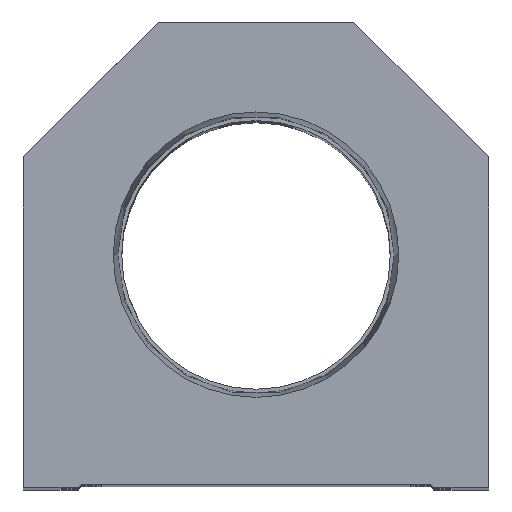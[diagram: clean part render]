
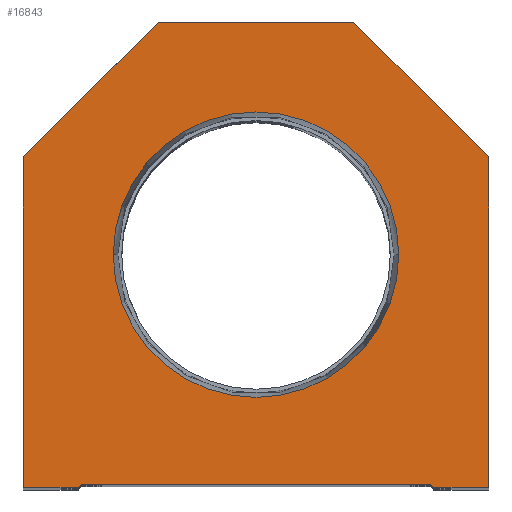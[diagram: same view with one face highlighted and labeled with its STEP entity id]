
A CAD part, top view. The second image highlights one B-rep face of the part: STEP entity #16843.
In plain terms, the highlighted planar face has unit normal (0, 0, 1).
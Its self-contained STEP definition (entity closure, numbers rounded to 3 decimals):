
#73 = EDGE_CURVE ( 'NONE', #10423, #9081, #10498, .T. ) ;
#437 = ORIENTED_EDGE ( 'NONE', *, *, #4249, .T. ) ;
#459 = ORIENTED_EDGE ( 'NONE', *, *, #3822, .T. ) ;
#995 = ORIENTED_EDGE ( 'NONE', *, *, #11549, .T. ) ;
#1031 = ORIENTED_EDGE ( 'NONE', *, *, #18874, .T. ) ;
#1499 = DIRECTION ( 'NONE',  ( -1., 0., 0. ) ) ;
#1584 = CARTESIAN_POINT ( 'NONE',  ( -23.374, 38.1, 0. ) ) ;
#1901 = ORIENTED_EDGE ( 'NONE', *, *, #11932, .F. ) ;
#2115 = VERTEX_POINT ( 'NONE', #11053 ) ;
#2200 = DIRECTION ( 'NONE',  ( 1., 0., 0. ) ) ;
#2228 = VERTEX_POINT ( 'NONE', #4473 ) ;
#2539 = CARTESIAN_POINT ( 'NONE',  ( 28.6, 0.5, 0. ) ) ;
#2654 = CARTESIAN_POINT ( 'NONE',  ( 23.374, 38.1, 0. ) ) ;
#2721 = LINE ( 'NONE', #5717, #19254 ) ;
#3082 = CARTESIAN_POINT ( 'NONE',  ( 0., 38.1, 0. ) ) ;
#3260 = ORIENTED_EDGE ( 'NONE', *, *, #16437, .T. ) ;
#3324 = CARTESIAN_POINT ( 'NONE',  ( -38.1, 54.1, 0. ) ) ;
#3338 = CARTESIAN_POINT ( 'NONE',  ( -38.1, 0., 0. ) ) ;
#3430 = VERTEX_POINT ( 'NONE', #14594 ) ;
#3467 = AXIS2_PLACEMENT_3D ( 'NONE', #18541, #13660, #2200 ) ;
#3815 = DIRECTION ( 'NONE',  ( -0.707, 0.707, 0. ) ) ;
#3818 = CARTESIAN_POINT ( 'NONE',  ( -28.6, 0.5, 0. ) ) ;
#3822 = EDGE_CURVE ( 'NONE', #2115, #2228, #11935, .T. ) ;
#4227 = VERTEX_POINT ( 'NONE', #2654 ) ;
#4249 = EDGE_CURVE ( 'NONE', #10523, #3430, #13329, .T. ) ;
#4473 = CARTESIAN_POINT ( 'NONE',  ( 38.1, 54.1, 0. ) ) ;
#4696 = CARTESIAN_POINT ( 'NONE',  ( 0., 0., 0. ) ) ;
#4876 = FACE_BOUND ( 'NONE', #8656, .T. ) ;
#4998 = DIRECTION ( 'NONE',  ( 1., 0., 0. ) ) ;
#5191 = CARTESIAN_POINT ( 'NONE',  ( 28.6, 0., 0. ) ) ;
#5717 = CARTESIAN_POINT ( 'NONE',  ( 38.1, 54.1, 0. ) ) ;
#5812 = EDGE_CURVE ( 'NONE', #9437, #2115, #12761, .T. ) ;
#5953 = CARTESIAN_POINT ( 'NONE',  ( 16., 76.2, 0. ) ) ;
#6014 = LINE ( 'NONE', #13404, #14085 ) ;
#6372 = EDGE_LOOP ( 'NONE', ( #437, #9649, #18803, #995, #7462, #459, #1031, #18526, #3260, #15921 ) ) ;
#6822 = VERTEX_POINT ( 'NONE', #2539 ) ;
#6940 = EDGE_CURVE ( 'NONE', #16508, #10523, #12434, .T. ) ;
#6990 = VECTOR ( 'NONE', #17975, 1000. ) ;
#7462 = ORIENTED_EDGE ( 'NONE', *, *, #5812, .T. ) ;
#7502 = CARTESIAN_POINT ( 'NONE',  ( -38.1, 54.1, 0. ) ) ;
#7645 = VECTOR ( 'NONE', #15166, 1000. ) ;
#8656 = EDGE_LOOP ( 'NONE', ( #1901, #9010 ) ) ;
#9010 = ORIENTED_EDGE ( 'NONE', *, *, #9927, .F. ) ;
#9081 = VERTEX_POINT ( 'NONE', #9426 ) ;
#9254 = DIRECTION ( 'NONE',  ( 1., 0., 0. ) ) ;
#9426 = CARTESIAN_POINT ( 'NONE',  ( -16., 76.2, 0. ) ) ;
#9437 = VERTEX_POINT ( 'NONE', #12435 ) ;
#9479 = VECTOR ( 'NONE', #11976, 1000. ) ;
#9649 = ORIENTED_EDGE ( 'NONE', *, *, #15798, .T. ) ;
#9927 = EDGE_CURVE ( 'NONE', #16183, #4227, #12848, .T. ) ;
#10423 = VERTEX_POINT ( 'NONE', #14677 ) ;
#10498 = LINE ( 'NONE', #5953, #14902 ) ;
#10523 = VERTEX_POINT ( 'NONE', #12797 ) ;
#11014 = CIRCLE ( 'NONE', #14462, 23.374 ) ;
#11053 = CARTESIAN_POINT ( 'NONE',  ( 38.1, 0., 0. ) ) ;
#11541 = DIRECTION ( 'NONE',  ( 0., 0., 1. ) ) ;
#11549 = EDGE_CURVE ( 'NONE', #6822, #9437, #6014, .T. ) ;
#11932 = EDGE_CURVE ( 'NONE', #4227, #16183, #11014, .T. ) ;
#11935 = LINE ( 'NONE', #17870, #6990 ) ;
#11976 = DIRECTION ( 'NONE',  ( 0.707, 0.707, 0. ) ) ;
#12434 = LINE ( 'NONE', #3338, #16461 ) ;
#12435 = CARTESIAN_POINT ( 'NONE',  ( 29.1, 0., 0. ) ) ;
#12761 = LINE ( 'NONE', #5191, #18012 ) ;
#12797 = CARTESIAN_POINT ( 'NONE',  ( -38.1, 0., 0. ) ) ;
#12848 = CIRCLE ( 'NONE', #3467, 23.374 ) ;
#13128 = CARTESIAN_POINT ( 'NONE',  ( -28.6, 0.5, 0. ) ) ;
#13329 = LINE ( 'NONE', #16159, #7645 ) ;
#13404 = CARTESIAN_POINT ( 'NONE',  ( 14.55, 14.55, 0. ) ) ;
#13660 = DIRECTION ( 'NONE',  ( 0., 0., 1. ) ) ;
#13708 = FACE_OUTER_BOUND ( 'NONE', #6372, .T. ) ;
#13805 = DIRECTION ( 'NONE',  ( 1., 0., 0. ) ) ;
#14085 = VECTOR ( 'NONE', #14854, 1000. ) ;
#14462 = AXIS2_PLACEMENT_3D ( 'NONE', #3082, #11541, #9254 ) ;
#14490 = DIRECTION ( 'NONE',  ( 1., 0., 0. ) ) ;
#14594 = CARTESIAN_POINT ( 'NONE',  ( -29.1, 0., 0. ) ) ;
#14677 = CARTESIAN_POINT ( 'NONE',  ( 16., 76.2, 0. ) ) ;
#14854 = DIRECTION ( 'NONE',  ( 0.707, -0.707, 0. ) ) ;
#14902 = VECTOR ( 'NONE', #1499, 1000. ) ;
#15166 = DIRECTION ( 'NONE',  ( 1., 0., 0. ) ) ;
#15216 = EDGE_CURVE ( 'NONE', #15396, #6822, #17423, .T. ) ;
#15247 = DIRECTION ( 'NONE',  ( 0., -1., 0. ) ) ;
#15386 = VECTOR ( 'NONE', #14490, 1000. ) ;
#15396 = VERTEX_POINT ( 'NONE', #3818 ) ;
#15798 = EDGE_CURVE ( 'NONE', #3430, #15396, #19310, .T. ) ;
#15921 = ORIENTED_EDGE ( 'NONE', *, *, #6940, .T. ) ;
#16159 = CARTESIAN_POINT ( 'NONE',  ( -28.6, 0., 0. ) ) ;
#16183 = VERTEX_POINT ( 'NONE', #1584 ) ;
#16356 = CARTESIAN_POINT ( 'NONE',  ( -14.55, 14.55, 0. ) ) ;
#16395 = AXIS2_PLACEMENT_3D ( 'NONE', #4696, #17999, #13805 ) ;
#16437 = EDGE_CURVE ( 'NONE', #9081, #16508, #16788, .T. ) ;
#16461 = VECTOR ( 'NONE', #15247, 1000. ) ;
#16508 = VERTEX_POINT ( 'NONE', #7502 ) ;
#16619 = PLANE ( 'NONE',  #16395 ) ;
#16788 = LINE ( 'NONE', #3324, #17289 ) ;
#16843 = ADVANCED_FACE ( 'NONE', ( #4876, #13708 ), #16619, .T. ) ;
#17289 = VECTOR ( 'NONE', #18167, 1000. ) ;
#17423 = LINE ( 'NONE', #13128, #15386 ) ;
#17870 = CARTESIAN_POINT ( 'NONE',  ( 38.1, 0., 0. ) ) ;
#17975 = DIRECTION ( 'NONE',  ( 0., 1., 0. ) ) ;
#17999 = DIRECTION ( 'NONE',  ( 0., 0., 1. ) ) ;
#18012 = VECTOR ( 'NONE', #4998, 1000. ) ;
#18167 = DIRECTION ( 'NONE',  ( -0.707, -0.707, 0. ) ) ;
#18526 = ORIENTED_EDGE ( 'NONE', *, *, #73, .T. ) ;
#18541 = CARTESIAN_POINT ( 'NONE',  ( 0., 38.1, 0. ) ) ;
#18803 = ORIENTED_EDGE ( 'NONE', *, *, #15216, .T. ) ;
#18874 = EDGE_CURVE ( 'NONE', #2228, #10423, #2721, .T. ) ;
#19254 = VECTOR ( 'NONE', #3815, 1000. ) ;
#19310 = LINE ( 'NONE', #16356, #9479 ) ;
